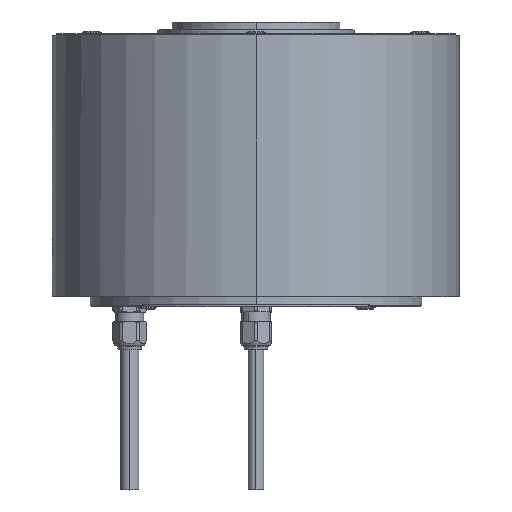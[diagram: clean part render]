
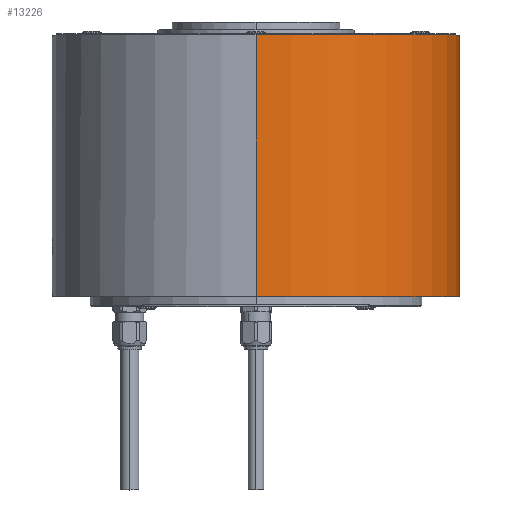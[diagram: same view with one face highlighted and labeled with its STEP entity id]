
A CAD part, top view. The second image highlights one B-rep face of the part: STEP entity #13226.
In plain terms, the highlighted cylindrical face has radius 72.5 mm (diameter 145 mm), a partial arc.
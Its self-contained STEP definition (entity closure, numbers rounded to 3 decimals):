
#460 = DIRECTION ( 'NONE',  ( 0., -1., 0. ) ) ;
#1572 = CARTESIAN_POINT ( 'NONE',  ( 0., 3., 72.5 ) ) ;
#1866 = CARTESIAN_POINT ( 'NONE',  ( 0., 3., -72.5 ) ) ;
#1955 = CARTESIAN_POINT ( 'NONE',  ( 0., 96.2, -72.5 ) ) ;
#2287 = DIRECTION ( 'NONE',  ( 0., -1., 0. ) ) ;
#4180 = VECTOR ( 'NONE', #2287, 1000. ) ;
#4447 = AXIS2_PLACEMENT_3D ( 'NONE', #18270, #16803, #11099 ) ;
#4731 = EDGE_LOOP ( 'NONE', ( #18516, #16756, #10448, #15265 ) ) ;
#4916 = LINE ( 'NONE', #18642, #4180 ) ;
#5310 = DIRECTION ( 'NONE',  ( 0., -1., 0. ) ) ;
#6043 = VERTEX_POINT ( 'NONE', #1572 ) ;
#6421 = FACE_OUTER_BOUND ( 'NONE', #4731, .T. ) ;
#7703 = DIRECTION ( 'NONE',  ( 0., 0., -1. ) ) ;
#8275 = CARTESIAN_POINT ( 'NONE',  ( 0., 0., -72.5 ) ) ;
#8913 = VERTEX_POINT ( 'NONE', #1955 ) ;
#9418 = DIRECTION ( 'NONE',  ( 0., -1., 0. ) ) ;
#9825 = AXIS2_PLACEMENT_3D ( 'NONE', #18200, #460, #7703 ) ;
#10411 = VECTOR ( 'NONE', #5310, 1000. ) ;
#10448 = ORIENTED_EDGE ( 'NONE', *, *, #17413, .F. ) ;
#11056 = CIRCLE ( 'NONE', #9825, 72.5 ) ;
#11099 = DIRECTION ( 'NONE',  ( 0., 0., -1. ) ) ;
#12630 = LINE ( 'NONE', #8275, #10411 ) ;
#13226 = ADVANCED_FACE ( 'NONE', ( #6421 ), #16919, .T. ) ;
#15265 = ORIENTED_EDGE ( 'NONE', *, *, #17424, .F. ) ;
#15362 = CIRCLE ( 'NONE', #17849, 72.5 ) ;
#15457 = CARTESIAN_POINT ( 'NONE',  ( 0., 3., 0. ) ) ;
#16756 = ORIENTED_EDGE ( 'NONE', *, *, #17404, .T. ) ;
#16803 = DIRECTION ( 'NONE',  ( 0., -1., 0. ) ) ;
#16919 = CYLINDRICAL_SURFACE ( 'NONE', #4447, 72.5 ) ;
#16992 = DIRECTION ( 'NONE',  ( 0., 0., -1. ) ) ;
#17404 = EDGE_CURVE ( 'NONE', #17436, #6043, #4916, .T. ) ;
#17413 = EDGE_CURVE ( 'NONE', #18862, #6043, #15362, .T. ) ;
#17424 = EDGE_CURVE ( 'NONE', #8913, #18862, #12630, .T. ) ;
#17436 = VERTEX_POINT ( 'NONE', #18554 ) ;
#17849 = AXIS2_PLACEMENT_3D ( 'NONE', #15457, #9418, #16992 ) ;
#17980 = EDGE_CURVE ( 'NONE', #8913, #17436, #11056, .T. ) ;
#18200 = CARTESIAN_POINT ( 'NONE',  ( 0., 96.2, 0. ) ) ;
#18270 = CARTESIAN_POINT ( 'NONE',  ( 0., 0., 0. ) ) ;
#18516 = ORIENTED_EDGE ( 'NONE', *, *, #17980, .T. ) ;
#18554 = CARTESIAN_POINT ( 'NONE',  ( 0., 96.2, 72.5 ) ) ;
#18642 = CARTESIAN_POINT ( 'NONE',  ( 0., 0., 72.5 ) ) ;
#18862 = VERTEX_POINT ( 'NONE', #1866 ) ;
